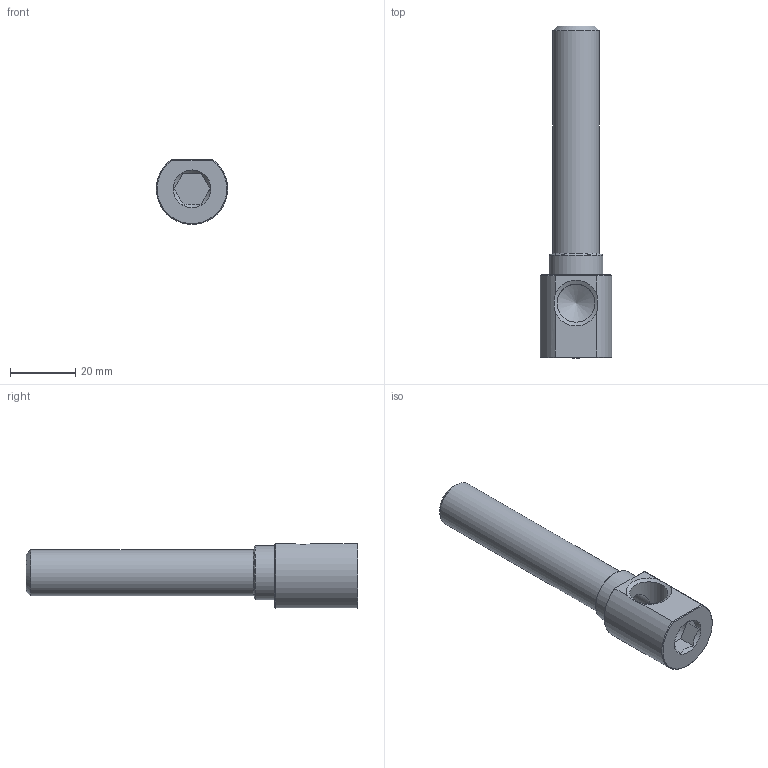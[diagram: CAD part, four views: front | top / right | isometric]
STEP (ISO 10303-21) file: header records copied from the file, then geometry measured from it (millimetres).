
FILE_DESCRIPTION(/* description */ (''),/* implementation_level */ '2;1');
FILE_NAME(/* name */ 'C:/Users/drich/Desktop/EKL14 X 4 v2.step',/* time_stamp */ '2019-11-18T14:32:50-06:00',/* author */ (''),/* organization */ (''),/* preprocessor_version */ 'ST-DEVELOPER v18',/* originating_system */ 'Autodesk Translation Framework v8.12.0.6',/* authorisation */ '');
FILE_SCHEMA (('AUTOMOTIVE_DESIGN { 1 0 10303 214 3 1 1 }'));
Length unit declared in the file: inch
Products named in the file (2): EKL14 X 4; EKL14 X 4_1
Assembly tree (1 placements, depth 2):
  EKL14 X 4
    EKL14 X 4_1
Bounding box: 21.77 x 101.6 x 19.77 mm (x, y, z)
Volume: 14177 mm3; surface area: 8694.1 mm2
Topology: 1 solids, 1 shells, 32 faces, 78 edges, 51 vertices
Faces by surface type: plane 16, cone 10, cylinder 6
Full cylindrical faces by diameter (mm): 8.712 x1, 11.176 x1, 11.668 x1, 14.143 x1, 16.51 x1
Entity records: 1051 total; most frequent: CARTESIAN_POINT 246, DIRECTION 159, ORIENTED_EDGE 154, EDGE_CURVE 77, AXIS2_PLACEMENT_3D 63, VERTEX_POINT 51, EDGE_LOOP 38, LINE 33
